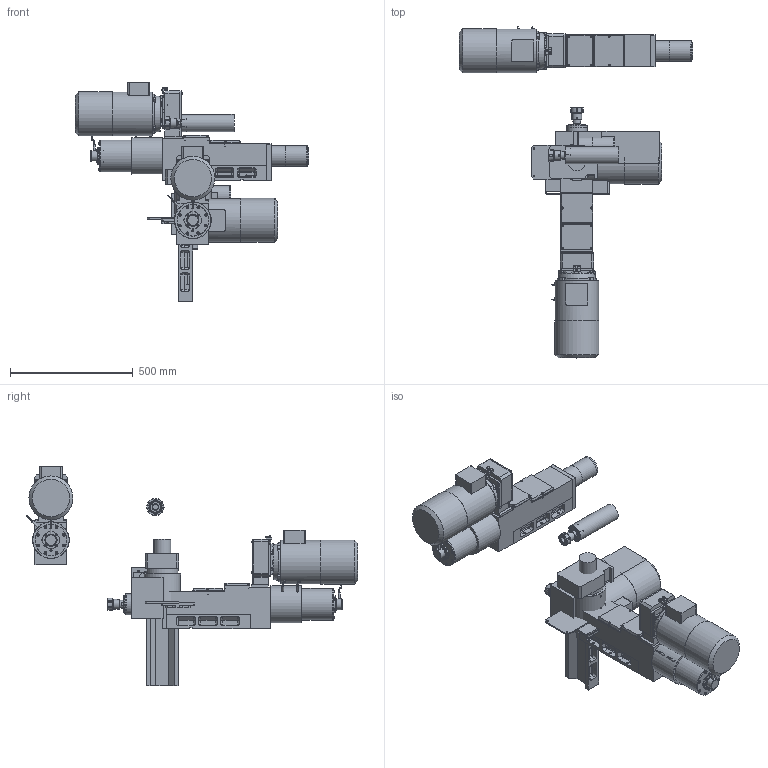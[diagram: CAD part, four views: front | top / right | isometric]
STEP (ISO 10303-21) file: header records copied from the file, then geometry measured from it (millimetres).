
FILE_DESCRIPTION( ( 'STEP AP203' ), '1' );
FILE_NAME( 'C:/Documents and Settings/Saverio/Desktop/disegni ironcad/unità serie 2/MC216A (ex MC220A)/MC 216 A_A03_P.stp', '2014-03-25T11:02:08', ( ' ' ), ( ' ' ), 'XStep 1.0', ' ', ' ' );
FILE_SCHEMA( ( 'CONFIG_CONTROL_DESIGN' ) );
Length unit declared in the file: metre
Products named in the file (56): Assem1; Assem2; Assem3; 1; 2; 3; 4; 5; 6; 7; 8; 9; 10; 11; 12; 13; 14; 15; 16; 17; 18; 19; 20; 21; 22; 23; 24; 25; 26; 27; 28; 29; 30; 31; 32; 33; 34; 35; 36; 37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
Bounding box: 950 x 1350.52 x 894.21 mm (x, y, z)
Volume: 61202245 mm3; surface area: 4701474.1 mm2
Topology: 159 solids, 162 shells, 3624 faces, 8220 edges, 5052 vertices
Faces by surface type: plane 1917, cylinder 939, cone 513, bspline 150, sphere 60, torus 45
Full cylindrical faces by diameter (mm): 3 x3, 5 x60, 5.5 x57, 6 x24, 6.5 x42, 6.637 x15, 6.647 x12, 6.75 x24, 7 x3, 8 x9, 8.385 x3, 8.5 x48, 8.75 x18, 8.758 x3, 18 x9, 20 x3, 23 x3, 24 x3, 27 x3, 30 x6, 31.2 x3, 32 x3, 38.5 x3, 40 x3, 44 x3, 44.2 x3, 50 x9, 50.5 x3, 52 x3, 53 x3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
Entity records: 37746 total; most frequent: CARTESIAN_POINT 10059, DIRECTION 5243, ORIENTED_EDGE 4598, EDGE_CURVE 2299, AXIS2_PLACEMENT_3D 1985, EDGE_LOOP 1723, VERTEX_POINT 1610, FACE_OUTER_BOUND 1380
